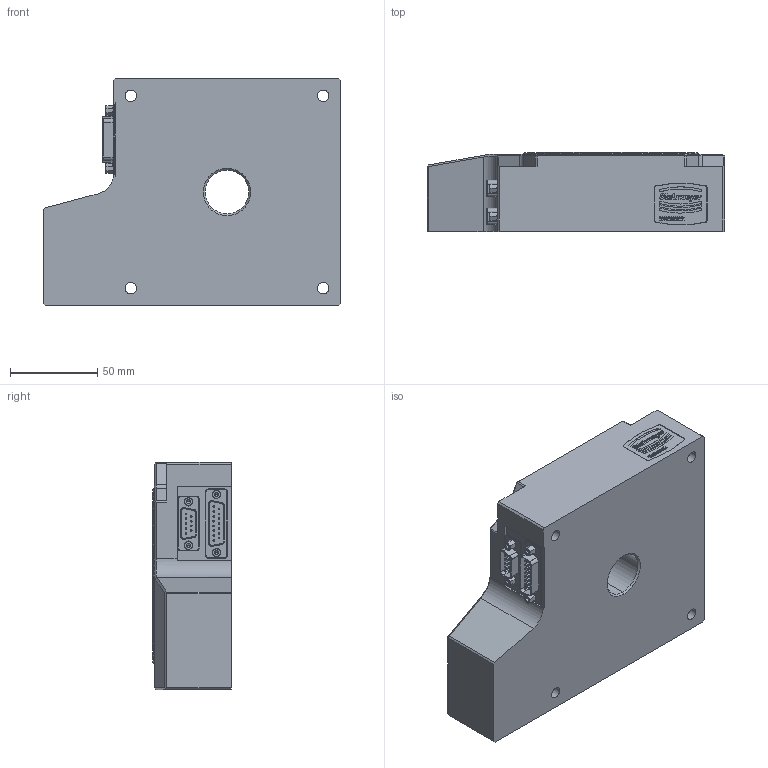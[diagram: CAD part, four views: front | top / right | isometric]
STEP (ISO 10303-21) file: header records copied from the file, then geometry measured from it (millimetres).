
FILE_DESCRIPTION((''),'2;1');
FILE_NAME('WEB_DT130_____________00011184_ASM','2016-08-26T',('profile'),(''),'PRO/ENGINEER BY PARAMETRIC TECHNOLOGY CORPORATION, 2015280','PRO/ENGINEER BY PARAMETRIC TECHNOLOGY CORPORATION, 2015280','');
FILE_SCHEMA(('CONFIG_CONTROL_DESIGN'));
Length unit declared in the file: millimetre
Products named in the file (7): WEB_DT130_BASIS_______00011185; WEB_DT130_TELLER______00011186; KT_9POL_SUB_D_STECKER; KT_15POL_SUB_D_STECKER; 789000_010_10_LOGO_30_00011080; KT_SECHSKANTB_DA_M3_D_00012278; WEB_DT130_____________00011184_ASM
Assembly tree (9 placements, depth 2):
  WEB_DT130_____________00011184_ASM
    WEB_DT130_BASIS_______00011185
    WEB_DT130_TELLER______00011186
    KT_9POL_SUB_D_STECKER
    KT_15POL_SUB_D_STECKER
    789000_010_10_LOGO_30_00011080
    KT_SECHSKANTB_DA_M3_D_00012278  x4
Bounding box: 170 x 45 x 130 mm (x, y, z)
Volume: 816470.3 mm3; surface area: 96753.8 mm2
Topology: 9 solids, 15 shells, 1028 faces, 2493 edges, 1587 vertices
Faces by surface type: plane 297, cylinder 285, extrusion 272, torus 114, cone 53, bspline 7
Entity records: 32862 total; most frequent: CARTESIAN_POINT 10261, ORIENTED_EDGE 4706, DIRECTION 4279, EDGE_CURVE 2365, VERTEX_POINT 1512, AXIS2_PLACEMENT_3D 1500, VECTOR 1279, EDGE_LOOP 1109
